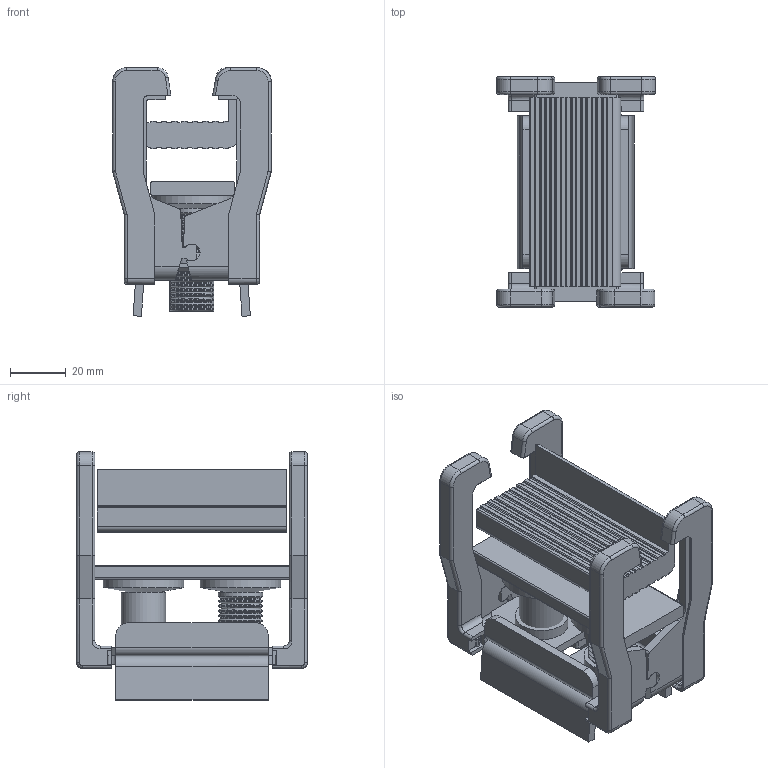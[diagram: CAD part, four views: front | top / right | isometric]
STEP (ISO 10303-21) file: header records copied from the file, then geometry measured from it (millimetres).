
FILE_DESCRIPTION (( 'STEP AP203' ), '1' );
FILE_NAME ('54212.STEP', '2021-08-14T01:56:18', ( '' ), ( '' ), 'SwSTEP 2.0', 'SolidWorks 2017', '' );
FILE_SCHEMA (( 'CONFIG_CONTROL_DESIGN' ));
Length unit declared in the file: millimetre
Products named in the file (2): 54212
Bounding box: 57.2 x 83 x 89.5 mm (x, y, z)
Volume: 97658.8 mm3; surface area: 64347.8 mm2
Topology: 9 solids, 9 shells, 929 faces, 2526 edges, 1609 vertices
Faces by surface type: plane 437, cylinder 361, cone 65, torus 40, bspline 26
Full cylindrical faces by diameter (mm): 8 x2, 10 x4, 14.343 x20, 14.5 x2, 16 x22, 19 x2, 29 x2
Entity records: 34258 total; most frequent: CARTESIAN_POINT 12073, ORIENTED_EDGE 4738, DIRECTION 4209, EDGE_CURVE 2369, VERTEX_POINT 1557, LINE 1487, VECTOR 1487, AXIS2_PLACEMENT_3D 1361
